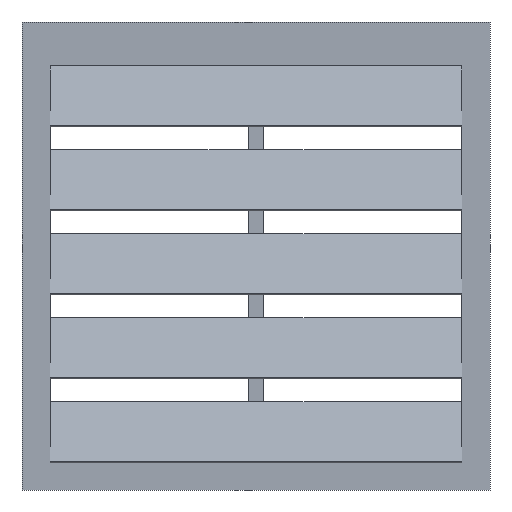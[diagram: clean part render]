
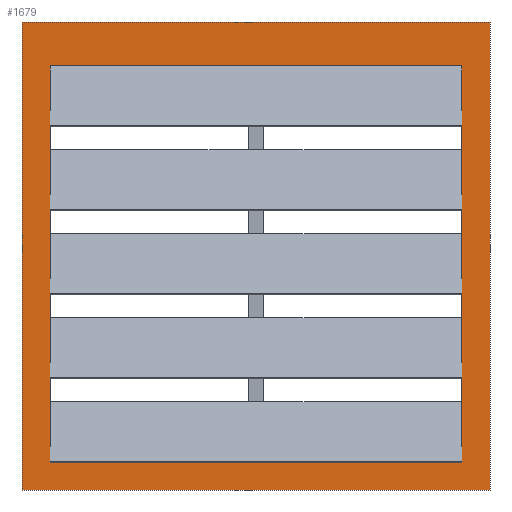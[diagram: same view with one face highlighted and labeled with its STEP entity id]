
A CAD part, front view. The second image highlights one B-rep face of the part: STEP entity #1679.
In plain terms, the highlighted planar face has unit normal (0, -1, 0).
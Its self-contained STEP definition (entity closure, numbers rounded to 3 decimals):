
#25=FACE_BOUND('',#220,.T.);
#133=FACE_OUTER_BOUND('',#219,.T.);
#219=EDGE_LOOP('',(#1496,#1497,#1498,#1499));
#220=EDGE_LOOP('',(#1500,#1501,#1502,#1503,#1504,#1505,#1506,#1507,#1508,
#1509,#1510,#1511,#1512,#1513,#1514,#1515,#1516,#1517,#1518,#1519,#1520,
#1521,#1522,#1523));
#238=LINE('',#2251,#453);
#241=LINE('',#2257,#456);
#264=LINE('',#2302,#479);
#267=LINE('',#2308,#482);
#290=LINE('',#2353,#505);
#293=LINE('',#2359,#508);
#316=LINE('',#2404,#531);
#319=LINE('',#2410,#534);
#344=LINE('',#2455,#559);
#354=LINE('',#2474,#569);
#355=LINE('',#2475,#570);
#356=LINE('',#2476,#571);
#357=LINE('',#2477,#572);
#364=LINE('',#2494,#579);
#383=LINE('',#2545,#598);
#393=LINE('',#2560,#608);
#394=LINE('',#2568,#609);
#396=LINE('',#2571,#611);
#397=LINE('',#2572,#612);
#398=LINE('',#2573,#613);
#399=LINE('',#2574,#614);
#408=LINE('',#2591,#623);
#412=LINE('',#2604,#627);
#427=LINE('',#2643,#642);
#432=LINE('',#2675,#647);
#433=LINE('',#2677,#648);
#434=LINE('',#2679,#649);
#435=LINE('',#2680,#650);
#453=VECTOR('',#1817,10.);
#456=VECTOR('',#1822,10.);
#479=VECTOR('',#1857,10.);
#482=VECTOR('',#1862,10.);
#505=VECTOR('',#1897,10.);
#508=VECTOR('',#1902,10.);
#531=VECTOR('',#1937,10.);
#534=VECTOR('',#1942,10.);
#559=VECTOR('',#1985,10.);
#569=VECTOR('',#1995,10.);
#570=VECTOR('',#1996,10.);
#571=VECTOR('',#1997,10.);
#572=VECTOR('',#1998,10.);
#579=VECTOR('',#2011,10.);
#598=VECTOR('',#2058,10.);
#608=VECTOR('',#2074,10.);
#609=VECTOR('',#2085,10.);
#611=VECTOR('',#2089,10.);
#612=VECTOR('',#2090,10.);
#613=VECTOR('',#2091,10.);
#614=VECTOR('',#2092,10.);
#623=VECTOR('',#2101,10.);
#627=VECTOR('',#2119,10.);
#642=VECTOR('',#2154,10.);
#647=VECTOR('',#2205,10.);
#648=VECTOR('',#2206,10.);
#649=VECTOR('',#2207,10.);
#650=VECTOR('',#2208,10.);
#660=VERTEX_POINT('',#2232);
#663=VERTEX_POINT('',#2238);
#667=VERTEX_POINT('',#2250);
#669=VERTEX_POINT('',#2256);
#678=VERTEX_POINT('',#2283);
#681=VERTEX_POINT('',#2289);
#685=VERTEX_POINT('',#2301);
#687=VERTEX_POINT('',#2307);
#696=VERTEX_POINT('',#2334);
#699=VERTEX_POINT('',#2340);
#703=VERTEX_POINT('',#2352);
#705=VERTEX_POINT('',#2358);
#714=VERTEX_POINT('',#2385);
#717=VERTEX_POINT('',#2391);
#721=VERTEX_POINT('',#2403);
#723=VERTEX_POINT('',#2409);
#734=VERTEX_POINT('',#2454);
#743=VERTEX_POINT('',#2472);
#749=VERTEX_POINT('',#2492);
#750=VERTEX_POINT('',#2493);
#768=VERTEX_POINT('',#2544);
#770=VERTEX_POINT('',#2558);
#772=VERTEX_POINT('',#2567);
#780=VERTEX_POINT('',#2589);
#799=VERTEX_POINT('',#2673);
#800=VERTEX_POINT('',#2674);
#801=VERTEX_POINT('',#2676);
#802=VERTEX_POINT('',#2678);
#816=EDGE_CURVE('',#663,#667,#238,.T.);
#819=EDGE_CURVE('',#669,#660,#241,.T.);
#842=EDGE_CURVE('',#681,#685,#264,.T.);
#845=EDGE_CURVE('',#687,#678,#267,.T.);
#868=EDGE_CURVE('',#699,#703,#290,.T.);
#871=EDGE_CURVE('',#705,#696,#293,.T.);
#894=EDGE_CURVE('',#717,#721,#316,.T.);
#897=EDGE_CURVE('',#723,#714,#319,.T.);
#922=EDGE_CURVE('',#734,#663,#344,.T.);
#932=EDGE_CURVE('',#721,#743,#354,.T.);
#933=EDGE_CURVE('',#703,#717,#355,.T.);
#934=EDGE_CURVE('',#685,#699,#356,.T.);
#935=EDGE_CURVE('',#667,#681,#357,.T.);
#942=EDGE_CURVE('',#749,#750,#364,.T.);
#969=EDGE_CURVE('',#743,#768,#383,.T.);
#979=EDGE_CURVE('',#768,#770,#393,.T.);
#983=EDGE_CURVE('',#772,#749,#394,.T.);
#985=EDGE_CURVE('',#678,#669,#396,.T.);
#986=EDGE_CURVE('',#696,#687,#397,.T.);
#987=EDGE_CURVE('',#714,#705,#398,.T.);
#988=EDGE_CURVE('',#750,#723,#399,.T.);
#997=EDGE_CURVE('',#660,#780,#408,.T.);
#1004=EDGE_CURVE('',#770,#772,#412,.T.);
#1025=EDGE_CURVE('',#780,#734,#427,.T.);
#1038=EDGE_CURVE('',#799,#800,#432,.T.);
#1039=EDGE_CURVE('',#800,#801,#433,.T.);
#1040=EDGE_CURVE('',#801,#802,#434,.T.);
#1041=EDGE_CURVE('',#802,#799,#435,.T.);
#1496=ORIENTED_EDGE('',*,*,#1038,.T.);
#1497=ORIENTED_EDGE('',*,*,#1039,.T.);
#1498=ORIENTED_EDGE('',*,*,#1040,.T.);
#1499=ORIENTED_EDGE('',*,*,#1041,.T.);
#1500=ORIENTED_EDGE('',*,*,#983,.T.);
#1501=ORIENTED_EDGE('',*,*,#942,.T.);
#1502=ORIENTED_EDGE('',*,*,#988,.T.);
#1503=ORIENTED_EDGE('',*,*,#897,.T.);
#1504=ORIENTED_EDGE('',*,*,#987,.T.);
#1505=ORIENTED_EDGE('',*,*,#871,.T.);
#1506=ORIENTED_EDGE('',*,*,#986,.T.);
#1507=ORIENTED_EDGE('',*,*,#845,.T.);
#1508=ORIENTED_EDGE('',*,*,#985,.T.);
#1509=ORIENTED_EDGE('',*,*,#819,.T.);
#1510=ORIENTED_EDGE('',*,*,#997,.T.);
#1511=ORIENTED_EDGE('',*,*,#1025,.T.);
#1512=ORIENTED_EDGE('',*,*,#922,.T.);
#1513=ORIENTED_EDGE('',*,*,#816,.T.);
#1514=ORIENTED_EDGE('',*,*,#935,.T.);
#1515=ORIENTED_EDGE('',*,*,#842,.T.);
#1516=ORIENTED_EDGE('',*,*,#934,.T.);
#1517=ORIENTED_EDGE('',*,*,#868,.T.);
#1518=ORIENTED_EDGE('',*,*,#933,.T.);
#1519=ORIENTED_EDGE('',*,*,#894,.T.);
#1520=ORIENTED_EDGE('',*,*,#932,.T.);
#1521=ORIENTED_EDGE('',*,*,#969,.T.);
#1522=ORIENTED_EDGE('',*,*,#979,.T.);
#1523=ORIENTED_EDGE('',*,*,#1004,.T.);
#1603=PLANE('',#1791);
#1679=ADVANCED_FACE('',(#133,#25),#1603,.T.);
#1791=AXIS2_PLACEMENT_3D('',#2672,#2203,#2204);
#1817=DIRECTION('',(0.,0.,1.));
#1822=DIRECTION('',(0.,0.,-1.));
#1857=DIRECTION('',(0.,0.,1.));
#1862=DIRECTION('',(0.,0.,-1.));
#1897=DIRECTION('',(0.,0.,1.));
#1902=DIRECTION('',(0.,0.,-1.));
#1937=DIRECTION('',(0.,0.,1.));
#1942=DIRECTION('',(0.,0.,-1.));
#1985=DIRECTION('',(0.,0.,1.));
#1995=DIRECTION('',(0.,0.,1.));
#1996=DIRECTION('',(0.,0.,1.));
#1997=DIRECTION('',(0.,0.,1.));
#1998=DIRECTION('',(0.,0.,1.));
#2011=DIRECTION('',(0.,0.,-1.));
#2058=DIRECTION('',(0.,0.,1.));
#2074=DIRECTION('',(0.,0.,1.));
#2085=DIRECTION('',(0.,0.,-1.));
#2089=DIRECTION('',(0.,0.,-1.));
#2090=DIRECTION('',(0.,0.,-1.));
#2091=DIRECTION('',(0.,0.,-1.));
#2092=DIRECTION('',(0.,0.,-1.));
#2101=DIRECTION('',(0.,0.,-1.));
#2119=DIRECTION('',(1.,0.,0.));
#2154=DIRECTION('',(-1.,0.,0.));
#2203=DIRECTION('center_axis',(0.,-1.,0.));
#2204=DIRECTION('ref_axis',(0.,0.,-1.));
#2205=DIRECTION('',(1.,0.,0.));
#2206=DIRECTION('',(0.,0.,1.));
#2207=DIRECTION('',(-1.,0.,0.));
#2208=DIRECTION('',(0.,0.,-1.));
#2232=CARTESIAN_POINT('',(171.5,-14.,-138.328));
#2238=CARTESIAN_POINT('',(-171.5,-14.,-138.328));
#2250=CARTESIAN_POINT('',(-171.5,-14.,-135.5));
#2251=CARTESIAN_POINT('',(-171.5,-14.,-79.25));
#2256=CARTESIAN_POINT('',(171.5,-14.,-135.5));
#2257=CARTESIAN_POINT('',(171.5,-14.,79.25));
#2283=CARTESIAN_POINT('',(171.5,-14.,-68.328));
#2289=CARTESIAN_POINT('',(-171.5,-14.,-68.328));
#2301=CARTESIAN_POINT('',(-171.5,-14.,-65.5));
#2302=CARTESIAN_POINT('',(-171.5,-14.,-79.25));
#2307=CARTESIAN_POINT('',(171.5,-14.,-65.5));
#2308=CARTESIAN_POINT('',(171.5,-14.,79.25));
#2334=CARTESIAN_POINT('',(171.5,-14.,1.672));
#2340=CARTESIAN_POINT('',(-171.5,-14.,1.672));
#2352=CARTESIAN_POINT('',(-171.5,-14.,4.5));
#2353=CARTESIAN_POINT('',(-171.5,-14.,-79.25));
#2358=CARTESIAN_POINT('',(171.5,-14.,4.5));
#2359=CARTESIAN_POINT('',(171.5,-14.,79.25));
#2385=CARTESIAN_POINT('',(171.5,-14.,71.672));
#2391=CARTESIAN_POINT('',(-171.5,-14.,71.672));
#2403=CARTESIAN_POINT('',(-171.5,-14.,74.5));
#2404=CARTESIAN_POINT('',(-171.5,-14.,-79.25));
#2409=CARTESIAN_POINT('',(171.5,-14.,74.5));
#2410=CARTESIAN_POINT('',(171.5,-14.,79.25));
#2454=CARTESIAN_POINT('',(-171.5,-14.,-158.5));
#2455=CARTESIAN_POINT('',(-171.5,-14.,-79.25));
#2472=CARTESIAN_POINT('',(-171.5,-14.,141.672));
#2474=CARTESIAN_POINT('',(-171.5,-14.,-79.25));
#2475=CARTESIAN_POINT('',(-171.5,-14.,-79.25));
#2476=CARTESIAN_POINT('',(-171.5,-14.,-79.25));
#2477=CARTESIAN_POINT('',(-171.5,-14.,-79.25));
#2492=CARTESIAN_POINT('',(171.5,-14.,144.5));
#2493=CARTESIAN_POINT('',(171.5,-14.,141.672));
#2494=CARTESIAN_POINT('',(171.5,-14.,79.25));
#2544=CARTESIAN_POINT('',(-171.5,-14.,144.5));
#2545=CARTESIAN_POINT('',(-171.5,-14.,-79.25));
#2558=CARTESIAN_POINT('',(-171.5,-14.,158.5));
#2560=CARTESIAN_POINT('',(-171.5,-14.,-79.25));
#2567=CARTESIAN_POINT('',(171.5,-14.,158.5));
#2568=CARTESIAN_POINT('',(171.5,-14.,79.25));
#2571=CARTESIAN_POINT('',(171.5,-14.,79.25));
#2572=CARTESIAN_POINT('',(171.5,-14.,79.25));
#2573=CARTESIAN_POINT('',(171.5,-14.,79.25));
#2574=CARTESIAN_POINT('',(171.5,-14.,79.25));
#2589=CARTESIAN_POINT('',(171.5,-14.,-158.5));
#2591=CARTESIAN_POINT('',(171.5,-14.,79.25));
#2604=CARTESIAN_POINT('',(-85.75,-14.,158.5));
#2643=CARTESIAN_POINT('',(85.75,-14.,-158.5));
#2672=CARTESIAN_POINT('Origin',(0.,-14.,0.));
#2673=CARTESIAN_POINT('',(-195.,-14.,-195.));
#2674=CARTESIAN_POINT('',(195.,-14.,-195.));
#2675=CARTESIAN_POINT('',(-195.,-14.,-195.));
#2676=CARTESIAN_POINT('',(195.,-14.,195.));
#2677=CARTESIAN_POINT('',(195.,-14.,-195.));
#2678=CARTESIAN_POINT('',(-195.,-14.,195.));
#2679=CARTESIAN_POINT('',(195.,-14.,195.));
#2680=CARTESIAN_POINT('',(-195.,-14.,195.));
